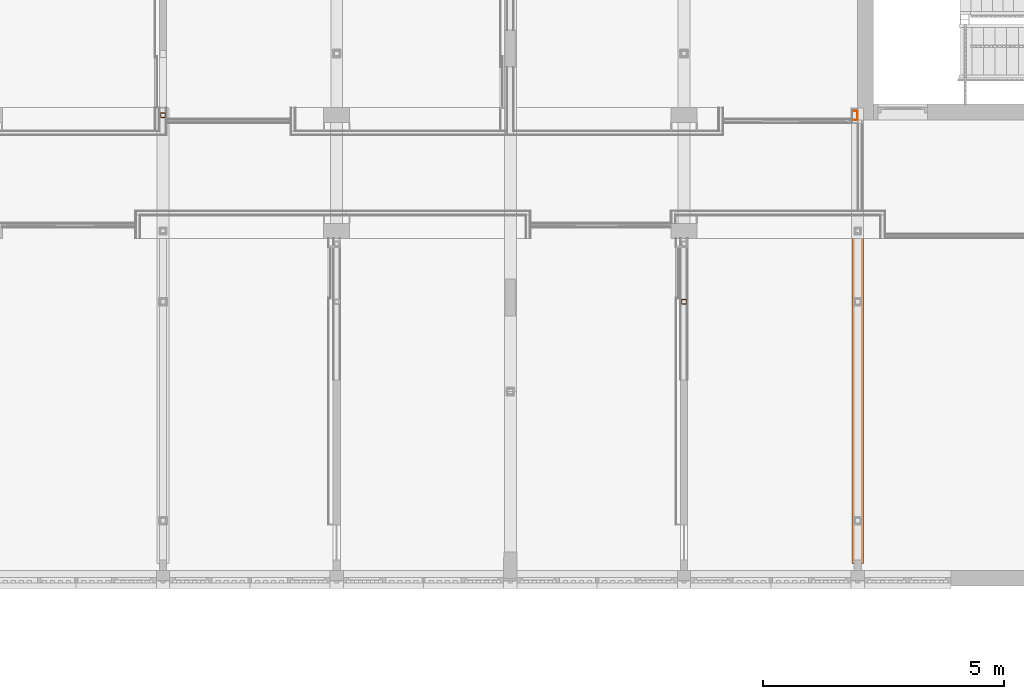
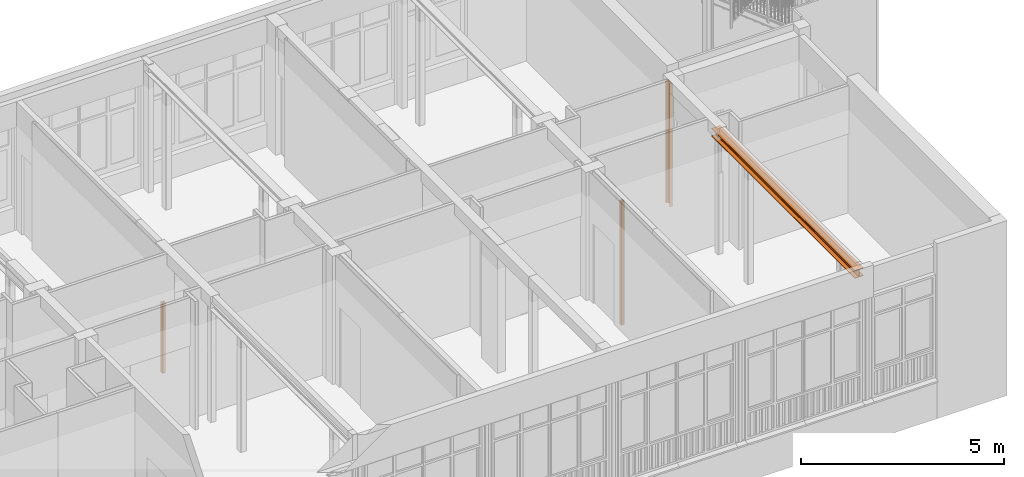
# One storey, part 134 of 135: 4 proxies.
"""IFC2X3 building model written with IfcOpenShell, lengths in millimetres."""

from ifc_helpers import new_model, entity, si_unit, converted_unit, derived_unit, money_unit, direction, frame, origin_with_axes, place, context, subcontext, project, spatial, faceted_brep, material, type_object, element, save


model = new_model("IFC2X3")

# Units and contexts
model_context = context("Model", 3, precision=0.01, world=origin_with_axes(), true_north=direction((0.0, 1.0)))
body_context = subcontext(model_context, "Body", "Model", "MODEL_VIEW")
ifc_project = project(units=[si_unit("LENGTHUNIT", "METRE", prefix="MILLI"), si_unit("AREAUNIT", "SQUARE_METRE"), si_unit("VOLUMEUNIT", "CUBIC_METRE"), converted_unit("PLANEANGLEUNIT", "DEGREE", entity("IfcPlaneAngleMeasure", 0.0174532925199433), si_unit("PLANEANGLEUNIT", "RADIAN"), dimensions=[0, 0, 0, 0, 0, 0, 0]), money_unit("EUR"), converted_unit("TIMEUNIT", "Year", entity("IfcTimeMeasure", 31557600.0), si_unit("TIMEUNIT", "SECOND"), dimensions=[0, 0, 1, 0, 0, 0, 0]), si_unit("MASSUNIT", "GRAM", prefix="KILO"), si_unit("THERMODYNAMICTEMPERATUREUNIT", "DEGREE_CELSIUS"), si_unit("LUMINOUSINTENSITYUNIT", "LUMEN"), si_unit("ENERGYUNIT", "JOULE", prefix="MEGA"), derived_unit("THERMALCONDUCTANCEUNIT", [(si_unit("POWERUNIT", "WATT"), 1), (si_unit("LENGTHUNIT", "METRE"), -1), (si_unit("THERMODYNAMICTEMPERATUREUNIT", "KELVIN"), -1)]), derived_unit("SPECIFICHEATCAPACITYUNIT", [(si_unit("ENERGYUNIT", "JOULE"), 1), (si_unit("MASSUNIT", "GRAM", prefix="KILO"), -1), (si_unit("THERMODYNAMICTEMPERATUREUNIT", "KELVIN"), -1)]), derived_unit("MASSDENSITYUNIT", [(si_unit("MASSUNIT", "GRAM", prefix="KILO"), 1), (si_unit("VOLUMEUNIT", "CUBIC_METRE"), -1)])], contexts=[model_context])

# Site, building, storey
site_placement = place(None, origin_with_axes())
site = spatial("IfcSite", under=ifc_project, at=site_placement, Name="Site", CompositionType="ELEMENT")
building_placement = place(site_placement, origin_with_axes())
building = spatial("IfcBuilding", under=site, at=building_placement, Name="Naam gebouw", CompositionType="ELEMENT")
storey_placement = place(building_placement, origin_with_axes())
storey = spatial("IfcBuildingStorey", under=building, at=storey_placement, Name="Begane grond N", CompositionType="ELEMENT", Elevation=0.0)

# Proxies
ifc_material = material(Name="Metaal - Staal AFW")
building_element_proxy_type_1 = type_object("IfcBuildingElementProxyType", Name="Buis vk warmgew kolom 27", PredefinedType="NOTDEFINED")
proxy_1_placement = place(storey_placement, frame((39599.99999999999, 20425.91242510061, 0.0), z_axis=(0.0, 0.0, 1.0), x_axis=(0.0, -1.0, 0.0)))
element("IfcBuildingElementProxy", 1, at=proxy_1_placement, inside=storey, type_object=building_element_proxy_type_1, material=ifc_material, Name="_Boom-x", context=body_context, shape_type="Brep", body=[
    faceted_brep([(34.0, -50.0, 0.0), (34.0, -50.0, 2100.0), (-34.0, -50.0, 2100.0), (-34.0, -50.0, 0.0), (45.31370849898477, -45.31370849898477, 0.0), (45.31370849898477, -45.31370849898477, 2100.0), (50.0, -34.0, 2100.0), (50.0, 34.0, 2100.0), (45.31370849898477, 45.31370849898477, 2100.0), (34.0, 50.0, 2100.0), (-34.0, 50.0, 2100.0), (-45.31370849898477, 45.31370849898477, 2100.0), (-50.0, 34.0, 2100.0), (-50.0, -34.0, 2100.0), (-45.31370849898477, -45.31370849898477, 2100.0), (34.00000000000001, -41.99999999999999, 2100.0), (-34.0, -42.0, 2100.0), (-39.65685424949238, -39.65685424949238, 2100.0), (-41.99999999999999, -34.00000000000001, 2100.0), (-42.0, 34.0, 2100.0), (-39.65685424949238, 39.65685424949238, 2100.0), (-34.00000000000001, 41.99999999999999, 2100.0), (34.0, 42.0, 2100.0), (39.65685424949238, 39.65685424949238, 2100.0), (41.99999999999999, 34.00000000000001, 2100.0), (42.0, -34.0, 2100.0), (39.65685424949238, -39.65685424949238, 2100.0), (-45.31370849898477, -45.31370849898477, 0.0), (-50.0, -34.0, 0.0), (-50.0, 34.0, 0.0), (-45.31370849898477, 45.31370849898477, 0.0), (-34.0, 50.0, 0.0), (34.0, 50.0, 0.0), (45.31370849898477, 45.31370849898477, 0.0), (50.0, 34.0, 0.0), (50.0, -34.0, 0.0), (34.00000000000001, -41.99999999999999, 0.0), (39.65685424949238, -39.65685424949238, 0.0), (42.0, -34.0, 0.0), (41.99999999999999, 34.00000000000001, 0.0), (39.65685424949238, 39.65685424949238, 0.0), (34.0, 42.0, 0.0), (-34.00000000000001, 41.99999999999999, 0.0), (-39.65685424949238, 39.65685424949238, 0.0), (-42.0, 34.0, 0.0), (-41.99999999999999, -34.00000000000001, 0.0), (-39.65685424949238, -39.65685424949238, 0.0), (-34.0, -42.0, 0.0)], [[[0, 1, 2, 3]], [[4, 5, 1, 0]], [[1, 5, 6, 7, 8, 9, 10, 11, 12, 13, 14, 2], [15, 16, 17, 18, 19, 20, 21, 22, 23, 24, 25, 26]], [[3, 2, 14, 27]], [[0, 3, 27, 28, 29, 30, 31, 32, 33, 34, 35, 4], [36, 37, 38, 39, 40, 41, 42, 43, 44, 45, 46, 47]], [[35, 6, 5, 4]], [[34, 7, 6, 35]], [[33, 8, 7, 34]], [[32, 9, 8, 33]], [[31, 10, 9, 32]], [[30, 11, 10, 31]], [[29, 12, 11, 30]], [[28, 13, 12, 29]], [[27, 14, 13, 28]], [[47, 16, 15, 36]], [[46, 17, 16, 47]], [[45, 18, 17, 46]], [[44, 19, 18, 45]], [[43, 20, 19, 44]], [[42, 21, 20, 43]], [[41, 22, 21, 42]], [[40, 23, 22, 41]], [[39, 24, 23, 40]], [[38, 25, 24, 39]], [[37, 26, 25, 38]], [[36, 15, 26, 37]]]),
])
proxy_2_placement = place(storey_placement, frame((50399.99999999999, 16560.91242510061, 0.0), z_axis=(0.0, 0.0, 1.0), x_axis=(0.0, -1.0, 0.0)))
element("IfcBuildingElementProxy", 2, at=proxy_2_placement, inside=storey, type_object=building_element_proxy_type_1, material=ifc_material, Name="_Boom-x", context=body_context, shape_type="Brep", body=[
    faceted_brep([(34.0, -50.0, 0.0), (34.0, -50.0, 3710.0), (-34.0, -50.0, 3710.0), (-34.0, -50.0, 0.0), (45.31370849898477, -45.31370849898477, 0.0), (45.31370849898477, -45.31370849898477, 3710.0), (50.0, -34.0, 3710.0), (50.0, 34.0, 3710.0), (45.31370849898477, 45.31370849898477, 3710.0), (34.0, 50.0, 3710.0), (-34.0, 50.0, 3710.0), (-45.31370849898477, 45.31370849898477, 3710.0), (-50.0, 34.0, 3710.0), (-50.0, -34.0, 3710.0), (-45.31370849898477, -45.31370849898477, 3710.0), (34.00000000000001, -41.99999999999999, 3710.0), (-34.0, -42.0, 3710.0), (-39.65685424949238, -39.65685424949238, 3710.0), (-41.99999999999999, -34.00000000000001, 3710.0), (-42.0, 34.0, 3710.0), (-39.65685424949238, 39.65685424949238, 3710.0), (-34.00000000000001, 41.99999999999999, 3710.0), (34.0, 42.0, 3710.0), (39.65685424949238, 39.65685424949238, 3710.0), (41.99999999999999, 34.00000000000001, 3710.0), (42.0, -34.0, 3710.0), (39.65685424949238, -39.65685424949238, 3710.0), (-45.31370849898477, -45.31370849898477, 0.0), (-50.0, -34.0, 0.0), (-50.0, 34.0, 0.0), (-45.31370849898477, 45.31370849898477, 0.0), (-34.0, 50.0, 0.0), (34.0, 50.0, 0.0), (45.31370849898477, 45.31370849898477, 0.0), (50.0, 34.0, 0.0), (50.0, -34.0, 0.0), (34.00000000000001, -41.99999999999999, 0.0), (39.65685424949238, -39.65685424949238, 0.0), (42.0, -34.0, 0.0), (41.99999999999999, 34.00000000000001, 0.0), (39.65685424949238, 39.65685424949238, 0.0), (34.0, 42.0, 0.0), (-34.00000000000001, 41.99999999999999, 0.0), (-39.65685424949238, 39.65685424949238, 0.0), (-42.0, 34.0, 0.0), (-41.99999999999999, -34.00000000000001, 0.0), (-39.65685424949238, -39.65685424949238, 0.0), (-34.0, -42.0, 0.0)], [[[0, 1, 2, 3]], [[4, 5, 1, 0]], [[1, 5, 6, 7, 8, 9, 10, 11, 12, 13, 14, 2], [15, 16, 17, 18, 19, 20, 21, 22, 23, 24, 25, 26]], [[3, 2, 14, 27]], [[0, 3, 27, 28, 29, 30, 31, 32, 33, 34, 35, 4], [36, 37, 38, 39, 40, 41, 42, 43, 44, 45, 46, 47]], [[35, 6, 5, 4]], [[34, 7, 6, 35]], [[33, 8, 7, 34]], [[32, 9, 8, 33]], [[31, 10, 9, 32]], [[30, 11, 10, 31]], [[29, 12, 11, 30]], [[28, 13, 12, 29]], [[27, 14, 13, 28]], [[47, 16, 15, 36]], [[46, 17, 16, 47]], [[45, 18, 17, 46]], [[44, 19, 18, 45]], [[43, 20, 19, 44]], [[42, 21, 20, 43]], [[41, 22, 21, 42]], [[40, 23, 22, 41]], [[39, 24, 23, 40]], [[38, 25, 24, 39]], [[37, 26, 25, 38]], [[36, 15, 26, 37]]]),
])
building_element_proxy_type_2 = type_object("IfcBuildingElementProxyType", Name="HEB balk 27", PredefinedType="NOTDEFINED")
proxy_3_placement = place(storey_placement, frame((54000.0, 11130.9124251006, 3439.999999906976), z_axis=(0.0, 0.0, 1.0), x_axis=(0.0, -1.0, 0.0)))
element("IfcBuildingElementProxy", 3, at=proxy_3_placement, inside=storey, type_object=building_element_proxy_type_2, material=ifc_material, Name="_Boom-x", context=body_context, shape_type="Brep", body=[
    faceted_brep([(0.0, -120.0, 0.0), (-7050.000000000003, -120.0000000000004, 0.0), (-7050.000000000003, 119.9999999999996, 0.0), (0.0, 120.0, 0.0), (0.0, -120.0, 17.0), (-7050.000000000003, -120.0000000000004, 17.00000000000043), (-7050.000000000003, -26.00000000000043, 17.00000000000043), (-7050.000000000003, -15.50000000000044, 19.81346652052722), (-7050.000000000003, -7.813466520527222, 27.50000000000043), (-7050.000000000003, -5.000000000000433, 38.00000000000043), (-7050.000000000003, -5.000000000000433, 202.0000000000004), (-7050.000000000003, -7.813466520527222, 212.5000000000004), (-7050.000000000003, -15.50000000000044, 220.1865334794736), (-7050.000000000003, -26.00000000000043, 223.0000000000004), (-7050.000000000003, -120.0000000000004, 223.0000000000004), (-7050.000000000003, -120.0000000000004, 240.0000000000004), (-7050.000000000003, 119.9999999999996, 240.0000000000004), (-7050.000000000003, 119.9999999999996, 223.0000000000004), (-7050.000000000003, 25.99999999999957, 223.0000000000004), (-7050.000000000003, 15.49999999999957, 220.1865334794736), (-7050.000000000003, 7.813466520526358, 212.5000000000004), (-7050.000000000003, 4.999999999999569, 202.0000000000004), (-7050.000000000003, 4.999999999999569, 38.00000000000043), (-7050.000000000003, 7.813466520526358, 27.50000000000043), (-7050.000000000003, 15.49999999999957, 19.81346652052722), (-7050.000000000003, 25.99999999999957, 17.00000000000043), (-7050.000000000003, 119.9999999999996, 17.00000000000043), (0.0, 120.0, 17.0), (0.0, 26.0, 17.0), (0.0, 15.5, 19.8134665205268), (0.0, 7.81346652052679, 27.5), (0.0, 5.000000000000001, 38.00000000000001), (0.0, 5.000000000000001, 202.0), (0.0, 7.81346652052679, 212.5), (0.0, 15.5, 220.1865334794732), (0.0, 26.0, 223.0), (0.0, 120.0, 223.0), (0.0, 120.0, 240.0), (0.0, -120.0, 240.0), (0.0, -120.0, 223.0), (0.0, -26.0, 223.0), (0.0, -15.5, 220.1865334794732), (0.0, -7.81346652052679, 212.5), (0.0, -5.000000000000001, 202.0), (0.0, -5.000000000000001, 38.00000000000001), (0.0, -7.81346652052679, 27.5), (0.0, -15.5, 19.8134665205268), (0.0, -26.0, 17.0)], [[[0, 1, 2, 3]], [[4, 5, 1, 0]], [[1, 5, 6, 7, 8, 9, 10, 11, 12, 13, 14, 15, 16, 17, 18, 19, 20, 21, 22, 23, 24, 25, 26, 2]], [[3, 2, 26, 27]], [[0, 3, 27, 28, 29, 30, 31, 32, 33, 34, 35, 36, 37, 38, 39, 40, 41, 42, 43, 44, 45, 46, 47, 4]], [[47, 6, 5, 4]], [[46, 7, 6, 47]], [[45, 8, 7, 46]], [[44, 9, 8, 45]], [[43, 10, 9, 44]], [[42, 11, 10, 43]], [[41, 12, 11, 42]], [[40, 13, 12, 41]], [[39, 14, 13, 40]], [[38, 15, 14, 39]], [[37, 16, 15, 38]], [[36, 17, 16, 37]], [[35, 18, 17, 36]], [[34, 19, 18, 35]], [[33, 20, 19, 34]], [[32, 21, 20, 33]], [[31, 22, 21, 32]], [[30, 23, 22, 31]], [[29, 24, 23, 30]], [[28, 25, 24, 29]], [[27, 26, 25, 28]]]),
])
building_element_proxy_type_3 = type_object("IfcBuildingElementProxyType", Name="UPN kolom 27", PredefinedType="NOTDEFINED")
proxy_4_placement = place(storey_placement, frame((53962.5, 20420.91242510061, 0.0), z_axis=(0.0, 0.0, 1.0), x_axis=(1.0, 0.0, 0.0)))
element("IfcBuildingElementProxy", 4, at=proxy_4_placement, inside=storey, type_object=building_element_proxy_type_3, material=ifc_material, Name="_Boom-x", context=body_context, shape_type="Brep", body=[
    faceted_brep([(-37.5, -100.0, 0.0), (-37.5, -100.0, 3699.999999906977), (-37.5, -94.50000000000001, 3699.999999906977), (-37.5, -94.50000000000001, 0.0), (37.5, -100.0, 0.0), (37.5, -100.0, 3699.999999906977), (37.5, 100.0, 3699.999999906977), (-37.5, 100.0, 3699.999999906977), (-37.5, 94.50000000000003, 3699.999999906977), (-37.38471168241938, 93.32945806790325, 3699.999999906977), (-37.04327719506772, 92.20389940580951, 3699.999999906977), (-36.48881767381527, 91.1665786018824, 3699.999999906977), (-35.74264068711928, 90.25735931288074, 3699.999999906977), (-34.83342139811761, 89.51118232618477, 3699.999999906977), (-33.79610059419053, 88.9567228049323, 3699.999999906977), (-32.67054193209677, 88.61528831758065, 3699.999999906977), (-31.49999999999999, 88.50000000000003, 3699.999999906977), (17.5, 88.5, 3699.999999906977), (19.74353870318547, 88.27903072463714, 3699.999999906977), (21.90085947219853, 87.62461462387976, 3699.999999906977), (23.88905767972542, 86.56190054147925, 3699.999999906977), (25.6317279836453, 85.13172798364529, 3699.999999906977), (27.06190054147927, 83.3890576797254, 3699.999999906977), (28.12461462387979, 81.40085947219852, 3699.999999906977), (28.77903072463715, 79.24353870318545, 3699.999999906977), (29.0, 76.99999999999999, 3699.999999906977), (29.0, -77.0, 3699.999999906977), (28.77903072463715, -79.24353870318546, 3699.999999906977), (28.12461462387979, -81.40085947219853, 3699.999999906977), (27.06190054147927, -83.38905767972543, 3699.999999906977), (25.6317279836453, -85.13172798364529, 3699.999999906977), (23.88905767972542, -86.56190054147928, 3699.999999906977), (21.90085947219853, -87.6246146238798, 3699.999999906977), (19.74353870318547, -88.27903072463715, 3699.999999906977), (17.5, -88.5, 3699.999999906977), (-31.49999999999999, -88.50000000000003, 3699.999999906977), (-32.67054193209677, -88.61528831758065, 3699.999999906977), (-33.79610059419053, -88.9567228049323, 3699.999999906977), (-34.83342139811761, -89.51118232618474, 3699.999999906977), (-35.74264068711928, -90.25735931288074, 3699.999999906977), (-36.48881767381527, -91.1665786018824, 3699.999999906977), (-37.04327719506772, -92.20389940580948, 3699.999999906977), (-37.38471168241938, -93.32945806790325, 3699.999999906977), (-37.38471168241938, -93.32945806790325, 0.0), (-37.04327719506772, -92.20389940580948, 0.0), (-36.48881767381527, -91.1665786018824, 0.0), (-35.74264068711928, -90.25735931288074, 0.0), (-34.83342139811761, -89.51118232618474, 0.0), (-33.79610059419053, -88.9567228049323, 0.0), (-32.67054193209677, -88.61528831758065, 0.0), (-31.49999999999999, -88.50000000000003, 0.0), (17.5, -88.5, 0.0), (19.74353870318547, -88.27903072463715, 0.0), (21.90085947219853, -87.6246146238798, 0.0), (23.88905767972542, -86.56190054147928, 0.0), (25.6317279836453, -85.13172798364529, 0.0), (27.06190054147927, -83.38905767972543, 0.0), (28.12461462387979, -81.40085947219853, 0.0), (28.77903072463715, -79.24353870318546, 0.0), (29.0, -77.0, 0.0), (29.0, 76.99999999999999, 0.0), (28.77903072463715, 79.24353870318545, 0.0), (28.12461462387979, 81.40085947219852, 0.0), (27.06190054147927, 83.3890576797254, 0.0), (25.6317279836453, 85.13172798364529, 0.0), (23.88905767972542, 86.56190054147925, 0.0), (21.90085947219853, 87.62461462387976, 0.0), (19.74353870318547, 88.27903072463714, 0.0), (17.5, 88.5, 0.0), (-31.49999999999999, 88.50000000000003, 0.0), (-32.67054193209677, 88.61528831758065, 0.0), (-33.79610059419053, 88.9567228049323, 0.0), (-34.83342139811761, 89.51118232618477, 0.0), (-35.74264068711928, 90.25735931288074, 0.0), (-36.48881767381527, 91.1665786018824, 0.0), (-37.04327719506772, 92.20389940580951, 0.0), (-37.38471168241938, 93.32945806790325, 0.0), (-37.5, 94.50000000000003, 0.0), (-37.5, 100.0, 0.0), (37.5, 100.0, 0.0)], [[[0, 1, 2, 3]], [[4, 5, 1, 0]], [[1, 5, 6, 7, 8, 9, 10, 11, 12, 13, 14, 15, 16, 17, 18, 19, 20, 21, 22, 23, 24, 25, 26, 27, 28, 29, 30, 31, 32, 33, 34, 35, 36, 37, 38, 39, 40, 41, 42, 2]], [[3, 2, 42, 43]], [[0, 3, 43, 44, 45, 46, 47, 48, 49, 50, 51, 52, 53, 54, 55, 56, 57, 58, 59, 60, 61, 62, 63, 64, 65, 66, 67, 68, 69, 70, 71, 72, 73, 74, 75, 76, 77, 78, 79, 4]], [[79, 6, 5, 4]], [[78, 7, 6, 79]], [[77, 8, 7, 78]], [[76, 9, 8, 77]], [[75, 10, 9, 76]], [[74, 11, 10, 75]], [[73, 12, 11, 74]], [[72, 13, 12, 73]], [[71, 14, 13, 72]], [[70, 15, 14, 71]], [[69, 16, 15, 70]], [[68, 17, 16, 69]], [[67, 18, 17, 68]], [[66, 19, 18, 67]], [[65, 20, 19, 66]], [[64, 21, 20, 65]], [[63, 22, 21, 64]], [[62, 23, 22, 63]], [[61, 24, 23, 62]], [[60, 25, 24, 61]], [[59, 26, 25, 60]], [[58, 27, 26, 59]], [[57, 28, 27, 58]], [[56, 29, 28, 57]], [[55, 30, 29, 56]], [[54, 31, 30, 55]], [[53, 32, 31, 54]], [[52, 33, 32, 53]], [[51, 34, 33, 52]], [[50, 35, 34, 51]], [[49, 36, 35, 50]], [[48, 37, 36, 49]], [[47, 38, 37, 48]], [[46, 39, 38, 47]], [[45, 40, 39, 46]], [[44, 41, 40, 45]], [[43, 42, 41, 44]]]),
])

save(model, "model.ifc")
